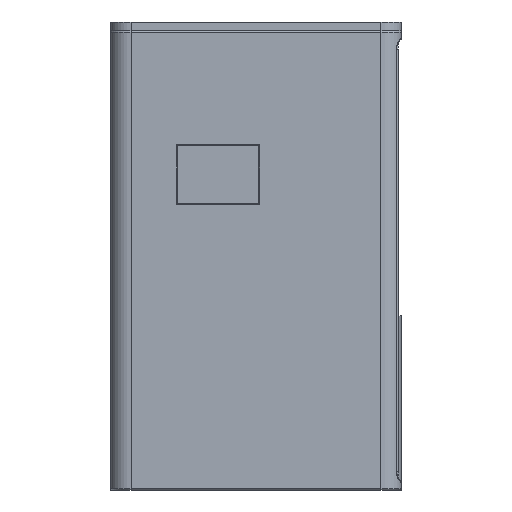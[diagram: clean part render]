
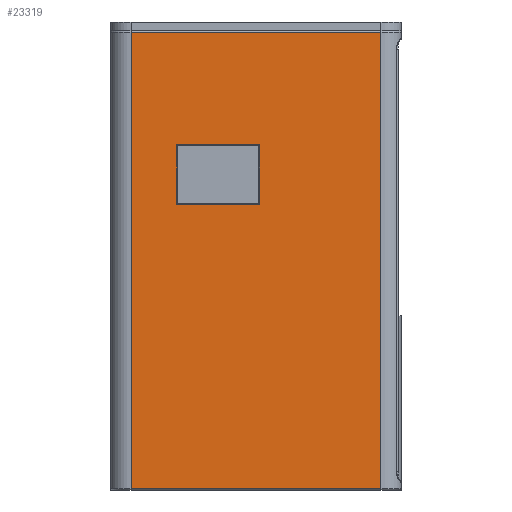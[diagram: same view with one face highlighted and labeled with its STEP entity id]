
A CAD part, left-side view. The second image highlights one B-rep face of the part: STEP entity #23319.
In plain terms, the highlighted planar face has unit normal (-1, 0, 0).
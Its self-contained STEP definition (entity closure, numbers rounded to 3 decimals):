
#17665 = CYLINDRICAL_SURFACE('',#17666,7.);
#17666 = AXIS2_PLACEMENT_3D('',#17667,#17668,#17669);
#17667 = CARTESIAN_POINT('',(7.,7.,0.));
#17668 = DIRECTION('',(0.,0.,1.));
#17669 = DIRECTION('',(-1.,-0.,0.));
#19902 = PLANE('',#19903);
#19903 = AXIS2_PLACEMENT_3D('',#19904,#19905,#19906);
#19904 = CARTESIAN_POINT('',(0.15,77.,98.35));
#19905 = DIRECTION('',(0.707,0.,
    -0.707));
#19906 = DIRECTION('',(0.,-1.,0.));
#19956 = PLANE('',#19957);
#19957 = AXIS2_PLACEMENT_3D('',#19958,#19959,#19960);
#19958 = CARTESIAN_POINT('',(0.15,77.15,98.5));
#19959 = DIRECTION('',(-0.707,-0.707,
    0.));
#19960 = DIRECTION('',(0.,0.,1.));
#20010 = PLANE('',#20011);
#20011 = AXIS2_PLACEMENT_3D('',#20012,#20013,#20014);
#20012 = CARTESIAN_POINT('',(0.15,48.85,98.5));
#20013 = DIRECTION('',(0.707,-0.707,
    0.));
#20014 = DIRECTION('',(0.,0.,1.));
#20062 = PLANE('',#20063);
#20063 = AXIS2_PLACEMENT_3D('',#20064,#20065,#20066);
#20064 = CARTESIAN_POINT('',(0.15,77.,118.65));
#20065 = DIRECTION('',(-0.707,0.,
    -0.707));
#20066 = DIRECTION('',(0.,-1.,0.));
#20130 = CYLINDRICAL_SURFACE('',#20131,0.5);
#20131 = AXIS2_PLACEMENT_3D('',#20132,#20133,#20134);
#20132 = CARTESIAN_POINT('',(0.5,7.,157.5));
#20133 = DIRECTION('',(-0.,1.,0.));
#20134 = DIRECTION('',(0.,0.,1.));
#20914 = VERTEX_POINT('',#20915);
#20915 = CARTESIAN_POINT('',(0.,7.,157.5));
#20937 = EDGE_CURVE('',#20938,#20914,#20940,.T.);
#20938 = VERTEX_POINT('',#20939);
#20939 = CARTESIAN_POINT('',(0.,7.,0.5));
#20940 = SURFACE_CURVE('',#20941,(#20945,#20952),.PCURVE_S1.);
#20941 = LINE('',#20942,#20943);
#20942 = CARTESIAN_POINT('',(0.,7.,0.));
#20943 = VECTOR('',#20944,1.);
#20944 = DIRECTION('',(0.,0.,1.));
#20945 = PCURVE('',#17665,#20946);
#20946 = DEFINITIONAL_REPRESENTATION('',(#20947),#20951);
#20947 = LINE('',#20948,#20949);
#20948 = CARTESIAN_POINT('',(0.,0.));
#20949 = VECTOR('',#20950,1.);
#20950 = DIRECTION('',(0.,1.));
#20951 = ( GEOMETRIC_REPRESENTATION_CONTEXT(2)
PARAMETRIC_REPRESENTATION_CONTEXT() REPRESENTATION_CONTEXT('2D SPACE',''
  ) );
#20952 = PCURVE('',#20953,#20958);
#20953 = PLANE('',#20954);
#20954 = AXIS2_PLACEMENT_3D('',#20955,#20956,#20957);
#20955 = CARTESIAN_POINT('',(0.,0.,0.));
#20956 = DIRECTION('',(1.,0.,-0.));
#20957 = DIRECTION('',(0.,0.,1.));
#20958 = DEFINITIONAL_REPRESENTATION('',(#20959),#20963);
#20959 = LINE('',#20960,#20961);
#20960 = CARTESIAN_POINT('',(0.,-7.));
#20961 = VECTOR('',#20962,1.);
#20962 = DIRECTION('',(1.,0.));
#20963 = ( GEOMETRIC_REPRESENTATION_CONTEXT(2)
PARAMETRIC_REPRESENTATION_CONTEXT() REPRESENTATION_CONTEXT('2D SPACE',''
  ) );
#22233 = VERTEX_POINT('',#22234);
#22234 = CARTESIAN_POINT('',(0.,77.3,98.2));
#22257 = VERTEX_POINT('',#22258);
#22258 = CARTESIAN_POINT('',(0.,48.7,98.2));
#22279 = EDGE_CURVE('',#22233,#22257,#22280,.T.);
#22280 = SURFACE_CURVE('',#22281,(#22285,#22292),.PCURVE_S1.);
#22281 = LINE('',#22282,#22283);
#22282 = CARTESIAN_POINT('',(0.,77.,98.2));
#22283 = VECTOR('',#22284,1.);
#22284 = DIRECTION('',(0.,-1.,0.));
#22285 = PCURVE('',#19902,#22286);
#22286 = DEFINITIONAL_REPRESENTATION('',(#22287),#22291);
#22287 = LINE('',#22288,#22289);
#22288 = CARTESIAN_POINT('',(0.,0.212));
#22289 = VECTOR('',#22290,1.);
#22290 = DIRECTION('',(1.,0.));
#22291 = ( GEOMETRIC_REPRESENTATION_CONTEXT(2)
PARAMETRIC_REPRESENTATION_CONTEXT() REPRESENTATION_CONTEXT('2D SPACE',''
  ) );
#22292 = PCURVE('',#20953,#22293);
#22293 = DEFINITIONAL_REPRESENTATION('',(#22294),#22298);
#22294 = LINE('',#22295,#22296);
#22295 = CARTESIAN_POINT('',(98.2,-77.));
#22296 = VECTOR('',#22297,1.);
#22297 = DIRECTION('',(0.,1.));
#22298 = ( GEOMETRIC_REPRESENTATION_CONTEXT(2)
PARAMETRIC_REPRESENTATION_CONTEXT() REPRESENTATION_CONTEXT('2D SPACE',''
  ) );
#22306 = VERTEX_POINT('',#22307);
#22307 = CARTESIAN_POINT('',(0.,77.3,118.8));
#22328 = EDGE_CURVE('',#22233,#22306,#22329,.T.);
#22329 = SURFACE_CURVE('',#22330,(#22334,#22341),.PCURVE_S1.);
#22330 = LINE('',#22331,#22332);
#22331 = CARTESIAN_POINT('',(0.,77.3,98.5));
#22332 = VECTOR('',#22333,1.);
#22333 = DIRECTION('',(0.,0.,1.));
#22334 = PCURVE('',#19956,#22335);
#22335 = DEFINITIONAL_REPRESENTATION('',(#22336),#22340);
#22336 = LINE('',#22337,#22338);
#22337 = CARTESIAN_POINT('',(0.,0.212));
#22338 = VECTOR('',#22339,1.);
#22339 = DIRECTION('',(1.,0.));
#22340 = ( GEOMETRIC_REPRESENTATION_CONTEXT(2)
PARAMETRIC_REPRESENTATION_CONTEXT() REPRESENTATION_CONTEXT('2D SPACE',''
  ) );
#22341 = PCURVE('',#20953,#22342);
#22342 = DEFINITIONAL_REPRESENTATION('',(#22343),#22347);
#22343 = LINE('',#22344,#22345);
#22344 = CARTESIAN_POINT('',(98.5,-77.3));
#22345 = VECTOR('',#22346,1.);
#22346 = DIRECTION('',(1.,0.));
#22347 = ( GEOMETRIC_REPRESENTATION_CONTEXT(2)
PARAMETRIC_REPRESENTATION_CONTEXT() REPRESENTATION_CONTEXT('2D SPACE',''
  ) );
#22355 = VERTEX_POINT('',#22356);
#22356 = CARTESIAN_POINT('',(0.,48.7,118.8));
#22377 = EDGE_CURVE('',#22257,#22355,#22378,.T.);
#22378 = SURFACE_CURVE('',#22379,(#22383,#22390),.PCURVE_S1.);
#22379 = LINE('',#22380,#22381);
#22380 = CARTESIAN_POINT('',(0.,48.7,98.5));
#22381 = VECTOR('',#22382,1.);
#22382 = DIRECTION('',(0.,0.,1.));
#22383 = PCURVE('',#20010,#22384);
#22384 = DEFINITIONAL_REPRESENTATION('',(#22385),#22389);
#22385 = LINE('',#22386,#22387);
#22386 = CARTESIAN_POINT('',(0.,0.212));
#22387 = VECTOR('',#22388,1.);
#22388 = DIRECTION('',(1.,0.));
#22389 = ( GEOMETRIC_REPRESENTATION_CONTEXT(2)
PARAMETRIC_REPRESENTATION_CONTEXT() REPRESENTATION_CONTEXT('2D SPACE',''
  ) );
#22390 = PCURVE('',#20953,#22391);
#22391 = DEFINITIONAL_REPRESENTATION('',(#22392),#22396);
#22392 = LINE('',#22393,#22394);
#22393 = CARTESIAN_POINT('',(98.5,-48.7));
#22394 = VECTOR('',#22395,1.);
#22395 = DIRECTION('',(1.,0.));
#22396 = ( GEOMETRIC_REPRESENTATION_CONTEXT(2)
PARAMETRIC_REPRESENTATION_CONTEXT() REPRESENTATION_CONTEXT('2D SPACE',''
  ) );
#22404 = EDGE_CURVE('',#22306,#22355,#22405,.T.);
#22405 = SURFACE_CURVE('',#22406,(#22410,#22417),.PCURVE_S1.);
#22406 = LINE('',#22407,#22408);
#22407 = CARTESIAN_POINT('',(0.,77.,118.8));
#22408 = VECTOR('',#22409,1.);
#22409 = DIRECTION('',(0.,-1.,0.));
#22410 = PCURVE('',#20062,#22411);
#22411 = DEFINITIONAL_REPRESENTATION('',(#22412),#22416);
#22412 = LINE('',#22413,#22414);
#22413 = CARTESIAN_POINT('',(0.,0.212));
#22414 = VECTOR('',#22415,1.);
#22415 = DIRECTION('',(1.,0.));
#22416 = ( GEOMETRIC_REPRESENTATION_CONTEXT(2)
PARAMETRIC_REPRESENTATION_CONTEXT() REPRESENTATION_CONTEXT('2D SPACE',''
  ) );
#22417 = PCURVE('',#20953,#22418);
#22418 = DEFINITIONAL_REPRESENTATION('',(#22419),#22423);
#22419 = LINE('',#22420,#22421);
#22420 = CARTESIAN_POINT('',(118.8,-77.));
#22421 = VECTOR('',#22422,1.);
#22422 = DIRECTION('',(0.,1.));
#22423 = ( GEOMETRIC_REPRESENTATION_CONTEXT(2)
PARAMETRIC_REPRESENTATION_CONTEXT() REPRESENTATION_CONTEXT('2D SPACE',''
  ) );
#22429 = VERTEX_POINT('',#22430);
#22430 = CARTESIAN_POINT('',(0.,93.,157.5));
#22488 = CYLINDRICAL_SURFACE('',#22489,7.);
#22489 = AXIS2_PLACEMENT_3D('',#22490,#22491,#22492);
#22490 = CARTESIAN_POINT('',(7.,93.,0.));
#22491 = DIRECTION('',(0.,0.,1.));
#22492 = DIRECTION('',(-1.,-0.,0.));
#22523 = EDGE_CURVE('',#20914,#22429,#22524,.T.);
#22524 = SURFACE_CURVE('',#22525,(#22529,#22536),.PCURVE_S1.);
#22525 = LINE('',#22526,#22527);
#22526 = CARTESIAN_POINT('',(0.,7.,157.5));
#22527 = VECTOR('',#22528,1.);
#22528 = DIRECTION('',(-0.,1.,0.));
#22529 = PCURVE('',#20130,#22530);
#22530 = DEFINITIONAL_REPRESENTATION('',(#22531),#22535);
#22531 = LINE('',#22532,#22533);
#22532 = CARTESIAN_POINT('',(-1.571,0.));
#22533 = VECTOR('',#22534,1.);
#22534 = DIRECTION('',(-0.,1.));
#22535 = ( GEOMETRIC_REPRESENTATION_CONTEXT(2)
PARAMETRIC_REPRESENTATION_CONTEXT() REPRESENTATION_CONTEXT('2D SPACE',''
  ) );
#22536 = PCURVE('',#20953,#22537);
#22537 = DEFINITIONAL_REPRESENTATION('',(#22538),#22542);
#22538 = LINE('',#22539,#22540);
#22539 = CARTESIAN_POINT('',(157.5,-7.));
#22540 = VECTOR('',#22541,1.);
#22541 = DIRECTION('',(0.,-1.));
#22542 = ( GEOMETRIC_REPRESENTATION_CONTEXT(2)
PARAMETRIC_REPRESENTATION_CONTEXT() REPRESENTATION_CONTEXT('2D SPACE',''
  ) );
#23308 = CYLINDRICAL_SURFACE('',#23309,0.5);
#23309 = AXIS2_PLACEMENT_3D('',#23310,#23311,#23312);
#23310 = CARTESIAN_POINT('',(0.5,7.,0.5));
#23311 = DIRECTION('',(-0.,1.,0.));
#23312 = DIRECTION('',(-0.,0.,-1.));
#23319 = ADVANCED_FACE('',(#23320,#23326),#20953,.F.);
#23320 = FACE_BOUND('',#23321,.F.);
#23321 = EDGE_LOOP('',(#23322,#23323,#23324,#23325));
#23322 = ORIENTED_EDGE('',*,*,#22279,.T.);
#23323 = ORIENTED_EDGE('',*,*,#22377,.T.);
#23324 = ORIENTED_EDGE('',*,*,#22404,.F.);
#23325 = ORIENTED_EDGE('',*,*,#22328,.F.);
#23326 = FACE_BOUND('',#23327,.F.);
#23327 = EDGE_LOOP('',(#23328,#23329,#23352,#23373));
#23328 = ORIENTED_EDGE('',*,*,#20937,.F.);
#23329 = ORIENTED_EDGE('',*,*,#23330,.T.);
#23330 = EDGE_CURVE('',#20938,#23331,#23333,.T.);
#23331 = VERTEX_POINT('',#23332);
#23332 = CARTESIAN_POINT('',(0.,93.,0.5));
#23333 = SURFACE_CURVE('',#23334,(#23338,#23345),.PCURVE_S1.);
#23334 = LINE('',#23335,#23336);
#23335 = CARTESIAN_POINT('',(0.,7.,0.5));
#23336 = VECTOR('',#23337,1.);
#23337 = DIRECTION('',(-0.,1.,0.));
#23338 = PCURVE('',#20953,#23339);
#23339 = DEFINITIONAL_REPRESENTATION('',(#23340),#23344);
#23340 = LINE('',#23341,#23342);
#23341 = CARTESIAN_POINT('',(0.5,-7.));
#23342 = VECTOR('',#23343,1.);
#23343 = DIRECTION('',(0.,-1.));
#23344 = ( GEOMETRIC_REPRESENTATION_CONTEXT(2)
PARAMETRIC_REPRESENTATION_CONTEXT() REPRESENTATION_CONTEXT('2D SPACE',''
  ) );
#23345 = PCURVE('',#23308,#23346);
#23346 = DEFINITIONAL_REPRESENTATION('',(#23347),#23351);
#23347 = LINE('',#23348,#23349);
#23348 = CARTESIAN_POINT('',(1.571,0.));
#23349 = VECTOR('',#23350,1.);
#23350 = DIRECTION('',(0.,1.));
#23351 = ( GEOMETRIC_REPRESENTATION_CONTEXT(2)
PARAMETRIC_REPRESENTATION_CONTEXT() REPRESENTATION_CONTEXT('2D SPACE',''
  ) );
#23352 = ORIENTED_EDGE('',*,*,#23353,.T.);
#23353 = EDGE_CURVE('',#23331,#22429,#23354,.T.);
#23354 = SURFACE_CURVE('',#23355,(#23359,#23366),.PCURVE_S1.);
#23355 = LINE('',#23356,#23357);
#23356 = CARTESIAN_POINT('',(0.,93.,0.));
#23357 = VECTOR('',#23358,1.);
#23358 = DIRECTION('',(0.,0.,1.));
#23359 = PCURVE('',#20953,#23360);
#23360 = DEFINITIONAL_REPRESENTATION('',(#23361),#23365);
#23361 = LINE('',#23362,#23363);
#23362 = CARTESIAN_POINT('',(0.,-93.));
#23363 = VECTOR('',#23364,1.);
#23364 = DIRECTION('',(1.,0.));
#23365 = ( GEOMETRIC_REPRESENTATION_CONTEXT(2)
PARAMETRIC_REPRESENTATION_CONTEXT() REPRESENTATION_CONTEXT('2D SPACE',''
  ) );
#23366 = PCURVE('',#22488,#23367);
#23367 = DEFINITIONAL_REPRESENTATION('',(#23368),#23372);
#23368 = LINE('',#23369,#23370);
#23369 = CARTESIAN_POINT('',(-0.,0.));
#23370 = VECTOR('',#23371,1.);
#23371 = DIRECTION('',(-0.,1.));
#23372 = ( GEOMETRIC_REPRESENTATION_CONTEXT(2)
PARAMETRIC_REPRESENTATION_CONTEXT() REPRESENTATION_CONTEXT('2D SPACE',''
  ) );
#23373 = ORIENTED_EDGE('',*,*,#22523,.F.);
